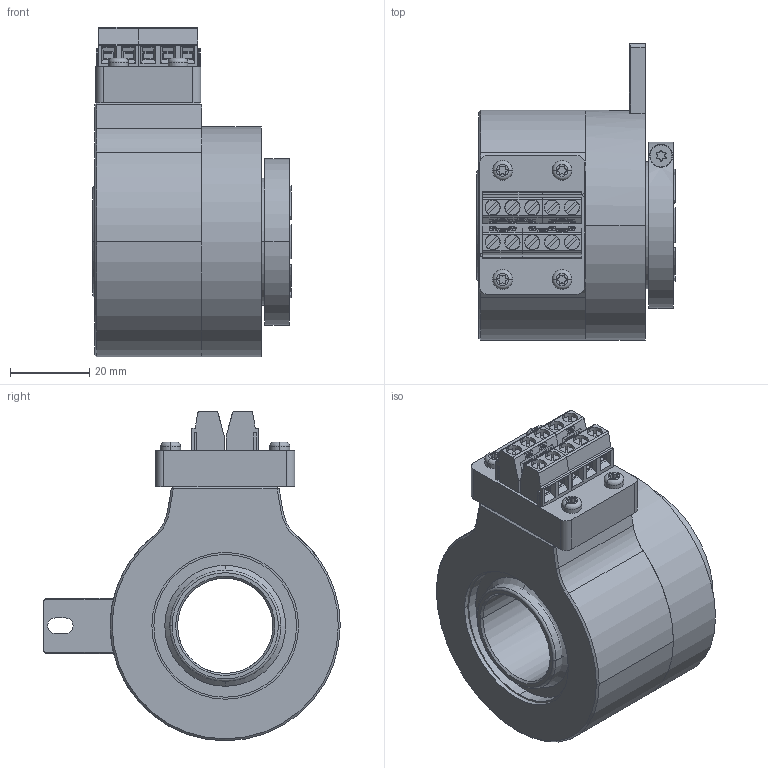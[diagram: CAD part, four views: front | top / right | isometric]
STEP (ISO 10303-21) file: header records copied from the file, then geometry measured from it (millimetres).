
FILE_DESCRIPTION (( 'STEP AP203' ), '1' );
FILE_NAME ('K58I.OXX.XXXXX.XH17524.XXRCF.step', '2025-12-03T09:09:33', ( '' ), ( '' ), 'SwSTEP 2.0', 'SolidWorks 2021', '' );
FILE_SCHEMA (( 'CONFIG_CONTROL_DESIGN' ));
Products named in the file (1): K58I.OXX.XXXXX.XH17524.XXRCF
Bounding box: 50 x 74.75 x 83.12 mm (x, y, z)
Volume: 115509.6 mm3; surface area: 47996.9 mm2
Topology: 41 solids, 41 shells, 3078 faces, 8519 edges, 5609 vertices
Faces by surface type: plane 2481, cylinder 511, cone 46, bspline 30, torus 10
Entity records: 98956 total; most frequent: CARTESIAN_POINT 19445, ORIENTED_EDGE 17014, DIRECTION 15621, EDGE_CURVE 8507, VECTOR 7207, LINE 7207, VERTEX_POINT 5609, AXIS2_PLACEMENT_3D 4207
